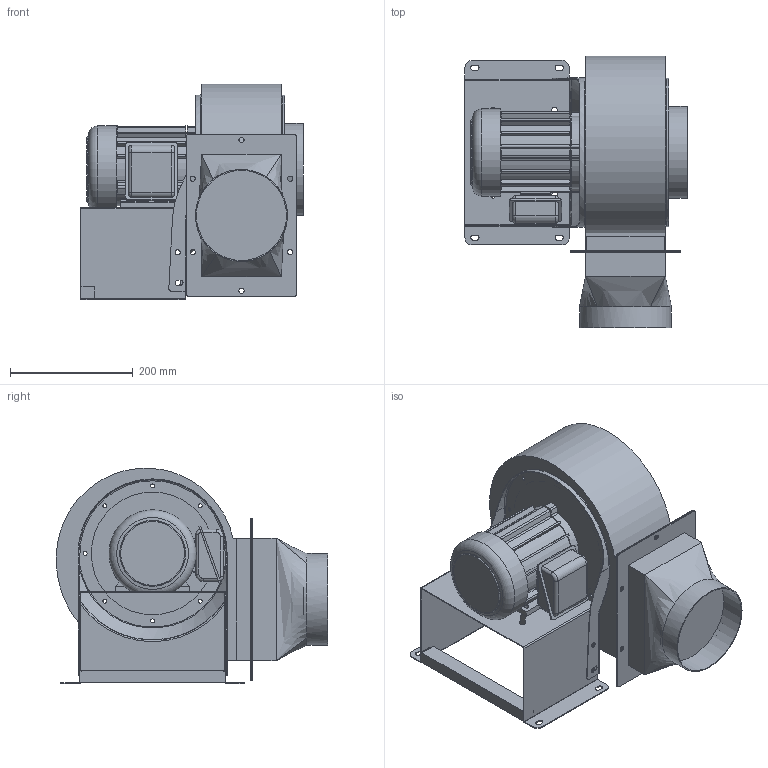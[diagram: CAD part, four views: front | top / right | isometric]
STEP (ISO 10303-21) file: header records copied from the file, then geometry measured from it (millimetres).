
FILE_DESCRIPTION(/* description */ ('Unknown'),/* implementation_level */ '2;1');
FILE_NAME(/* name */ 'CY190A4PQ-EG 型錄',/* time_stamp */ '2026-04-25T15:12:47+08:00',/* author */ ('Unknown'),/* organization */ ('Unknown'),/* preprocessor_version */ 'ST-DEVELOPER v20',/* originating_system */ 'Solid Edge',/* authorisation */ 'Unknown');
FILE_SCHEMA (('AUTOMOTIVE_DESIGN {1 0 10303 214 3 1 1}'));
Length unit declared in the file: millimetre
Products named in the file (6): CY190A4PQ-EG 型; CY190-01; CY190-05; CY190-06+07; CY190-04+08; JM1904P-EG
Assembly tree (5 placements, depth 2):
  CY190A4PQ-EG 型
    CY190-01
    CY190-05
    CY190-06+07
    CY190-04+08
    JM1904P-EG
Bounding box: 362.3 x 442.4 x 351.41 mm (x, y, z)
Volume: 10969887.6 mm3; surface area: 1246637.8 mm2
Topology: 6 solids, 6 shells, 481 faces, 1303 edges, 851 vertices
Faces by surface type: cylinder 222, plane 218, torus 20, bspline 13, sphere 4, cone 4
Full cylindrical faces by diameter (mm): 6.5 x24, 7 x4, 8.5 x14, 13.993 x1, 30 x1, 91 x1, 107 x1, 117 x1, 119 x1, 147 x1, 148 x1, 150 x2, 200 x2, 238 x1, 240 x1, 242 x1
Entity records: 15634 total; most frequent: CARTESIAN_POINT 3165, DIRECTION 2643, ORIENTED_EDGE 2422, EDGE_CURVE 1211, AXIS2_PLACEMENT_3D 986, VERTEX_POINT 829, EDGE_LOOP 688, FACE_BOUND 688
